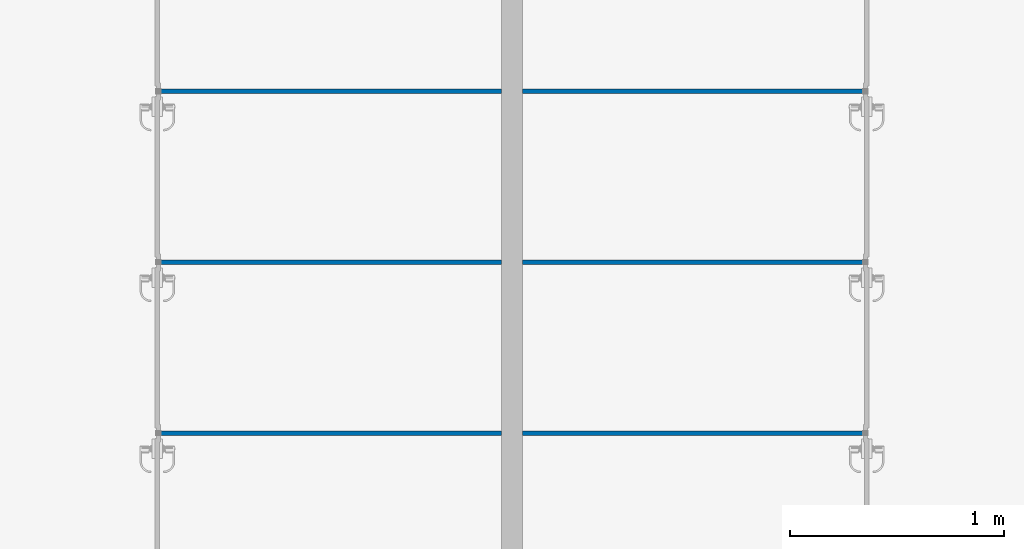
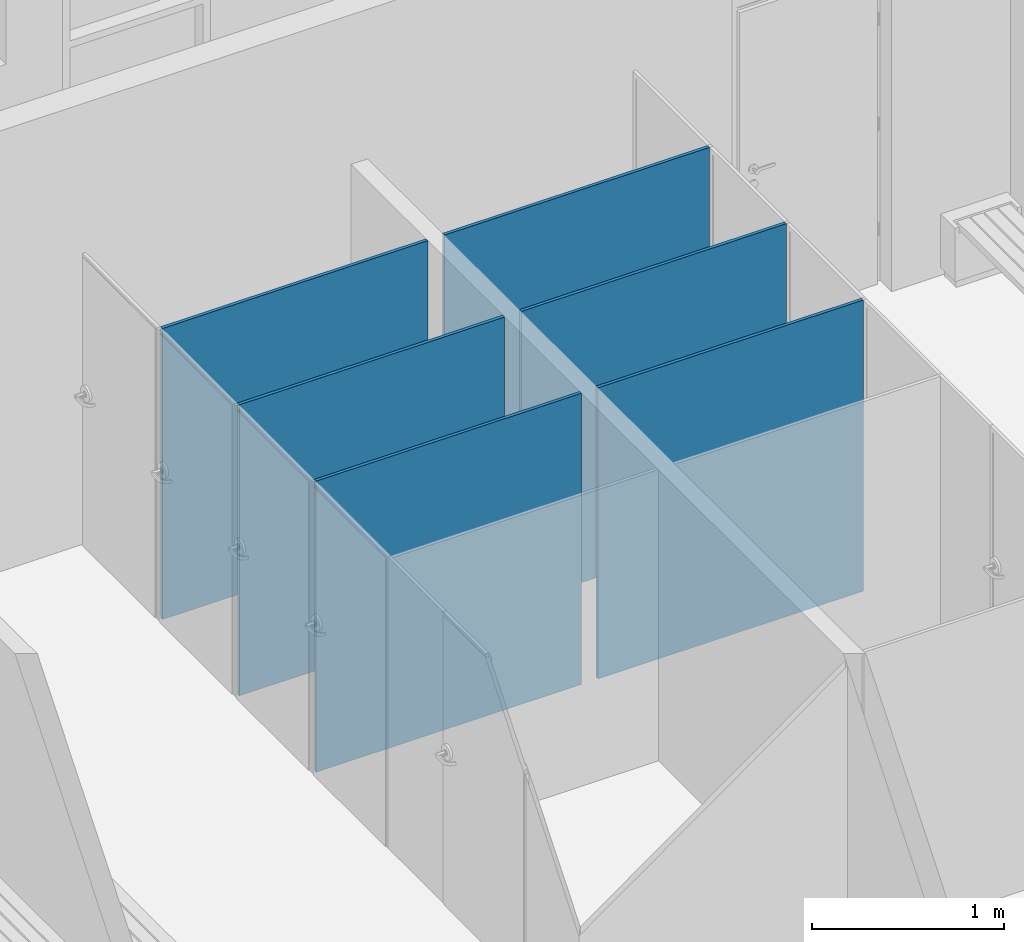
# One storey, part 22 of 45: 6 walls.
"""IFC2X3 building model written with IfcOpenShell, lengths in metres."""

from ifc_helpers import new_model, entity, si_unit, converted_unit, money_unit, direction, frame, origin_with_axes, place, context, subcontext, project, spatial, polyline, outline, extrude, material, layer, layer_set, layer_usage, type_object, element, save


model = new_model("IFC2X3")

# Units and contexts
model_context = context("Model", 3, precision=1e-05, world=origin_with_axes(), true_north=direction((0.0, 1.0)))
body_context = subcontext(model_context, "Body", "Model", "MODEL_VIEW")
ifc_project = project(units=[si_unit("LENGTHUNIT", "METRE"), si_unit("AREAUNIT", "SQUARE_METRE"), si_unit("VOLUMEUNIT", "CUBIC_METRE"), converted_unit("PLANEANGLEUNIT", "DEGREE", entity("IfcPlaneAngleMeasure", 0.0174532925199), si_unit("PLANEANGLEUNIT", "RADIAN"), dimensions=[0, 0, 0, 0, 0, 0, 0]), si_unit("SOLIDANGLEUNIT", "STERADIAN"), money_unit("EUR"), converted_unit("TIMEUNIT", "Year", entity("IfcTimeMeasure", 31556926.0), si_unit("TIMEUNIT", "SECOND"), dimensions=[0, 0, 0, 0, 0, 0, 0]), si_unit("MASSUNIT", "GRAM"), si_unit("THERMODYNAMICTEMPERATUREUNIT", "DEGREE_CELSIUS"), si_unit("LUMINOUSINTENSITYUNIT", "LUMEN")], contexts=[model_context])

# Site, building, storey
site_placement = place(None, origin_with_axes())
site = spatial("IfcSite", under=ifc_project, at=site_placement, Name="Site", CompositionType="ELEMENT")
building_placement = place(site_placement, origin_with_axes())
building = spatial("IfcBuilding", under=site, at=building_placement, Name="Bâtiment", CompositionType="ELEMENT")
storey_placement = place(building_placement, origin_with_axes())
storey = spatial("IfcBuildingStorey", under=building, at=storey_placement, Name="NIVEAU BAS GYMNASE", CompositionType="ELEMENT", Elevation=0.0)

# Walls
ifc_material = material(Name="Hachure solide 3821565075")
ifc_layer = layer(ifc_material, 0.02, ventilated="UNKNOWN")
ifc_layer_set = layer_set([ifc_layer], Name="Hachure solide 3821565075 0.02")
ifc_layer_usage_1 = layer_usage(ifc_layer_set, "AXIS2", "POSITIVE", -0.01)
wall_type = type_object("IfcWallType", Name="Hachure solide 3821565075 20", PredefinedType="NOTDEFINED")
wall_1_placement = place(storey_placement, frame((63.153457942, 10.7188157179, 0.0), z_axis=(0.0, 0.0, 1.0), x_axis=(-1.0, 0.0, 0.0)))
element("IfcWallStandardCase", 1, at=wall_1_placement, inside=storey, type_object=wall_type, material=ifc_layer_usage_1, Name="Mur-023", context=body_context, shape_type="SweptSolid", body=[
    extrude(outline(polyline([(0.05, -0.01), (1.6447553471, -0.01), (1.6447553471, 0.01), (0.05, 0.01), (0.05, -0.01)])), origin_with_axes(), (0.0, 0.0, 1.0), 1.85),
])
ifc_layer_usage_2 = layer_usage(ifc_layer_set, "AXIS2", "POSITIVE", -0.01)
wall_2_placement = place(storey_placement, frame((63.153457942, 10.7188157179, 0.0), z_axis=(0.0, 0.0, 1.0), x_axis=(1.0, 0.0, 0.0)))
element("IfcWallStandardCase", 2, at=wall_2_placement, inside=storey, type_object=wall_type, material=ifc_layer_usage_2, Name="Mur-023", context=body_context, shape_type="SweptSolid", body=[
    extrude(outline(polyline([(0.05, -0.01), (1.6447553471, -0.01), (1.6447553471, 0.01), (0.05, 0.01), (0.05, -0.01)])), origin_with_axes(), (0.0, 0.0, 1.0), 1.85),
])
ifc_layer_usage_3 = layer_usage(ifc_layer_set, "AXIS2", "POSITIVE", -0.01)
wall_3_placement = place(storey_placement, frame((63.153457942, 11.518815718, 0.0), z_axis=(0.0, 0.0, 1.0), x_axis=(-1.0, 0.0, 0.0)))
element("IfcWallStandardCase", 3, at=wall_3_placement, inside=storey, type_object=wall_type, material=ifc_layer_usage_3, Name="Mur-022", context=body_context, shape_type="SweptSolid", body=[
    extrude(outline(polyline([(0.05, -0.01), (1.6447553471, -0.01), (1.6447553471, 0.01), (0.05, 0.01), (0.05, -0.01)])), origin_with_axes(), (0.0, 0.0, 1.0), 1.85),
])
ifc_layer_usage_4 = layer_usage(ifc_layer_set, "AXIS2", "POSITIVE", -0.01)
wall_4_placement = place(storey_placement, frame((63.153457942, 11.518815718, 0.0), z_axis=(0.0, 0.0, 1.0), x_axis=(1.0, 0.0, 0.0)))
element("IfcWallStandardCase", 4, at=wall_4_placement, inside=storey, type_object=wall_type, material=ifc_layer_usage_4, Name="Mur-022", context=body_context, shape_type="SweptSolid", body=[
    extrude(outline(polyline([(0.05, -0.01), (1.6447553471, -0.01), (1.6447553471, 0.01), (0.05, 0.01), (0.05, -0.01)])), origin_with_axes(), (0.0, 0.0, 1.0), 1.85),
])
ifc_layer_usage_5 = layer_usage(ifc_layer_set, "AXIS2", "POSITIVE", -0.01)
wall_5_placement = place(storey_placement, frame((63.153457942, 12.3188157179, 0.0), z_axis=(0.0, 0.0, 1.0), x_axis=(-1.0, 0.0, 0.0)))
element("IfcWallStandardCase", 5, at=wall_5_placement, inside=storey, type_object=wall_type, material=ifc_layer_usage_5, Name="Mur-022", context=body_context, shape_type="SweptSolid", body=[
    extrude(outline(polyline([(0.05, -0.01), (1.6447553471, -0.01), (1.6447553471, 0.01), (0.05, 0.01), (0.05, -0.01)])), origin_with_axes(), (0.0, 0.0, 1.0), 1.85),
])
ifc_layer_usage_6 = layer_usage(ifc_layer_set, "AXIS2", "POSITIVE", -0.01)
wall_6_placement = place(storey_placement, frame((63.153457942, 12.3188157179, 0.0), z_axis=(0.0, 0.0, 1.0), x_axis=(1.0, 0.0, 0.0)))
element("IfcWallStandardCase", 6, at=wall_6_placement, inside=storey, type_object=wall_type, material=ifc_layer_usage_6, Name="Mur-022", context=body_context, shape_type="SweptSolid", body=[
    extrude(outline(polyline([(0.05, -0.01), (1.6447553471, -0.01), (1.6447553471, 0.01), (0.05, 0.01), (0.05, -0.01)])), origin_with_axes(), (0.0, 0.0, 1.0), 1.85),
])

save(model, "model.ifc")
